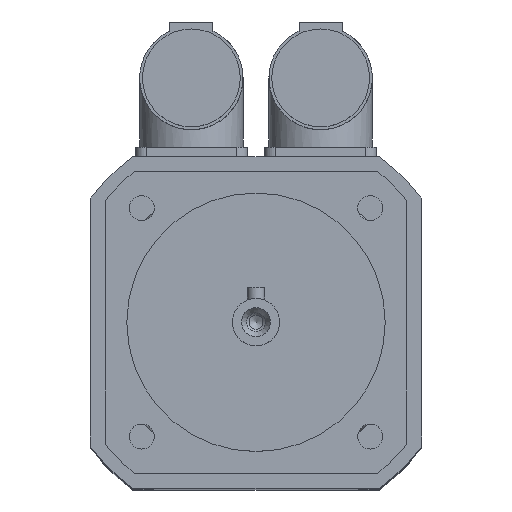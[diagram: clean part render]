
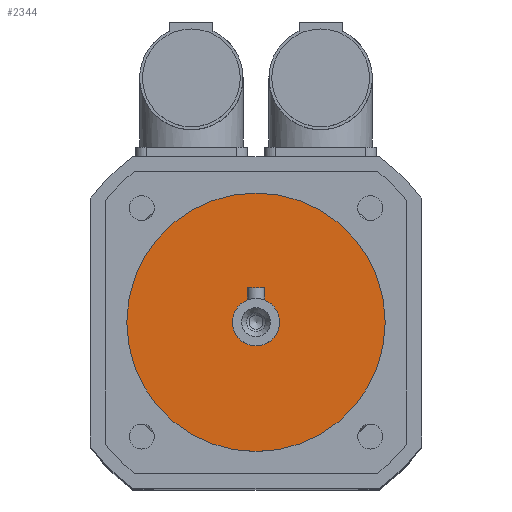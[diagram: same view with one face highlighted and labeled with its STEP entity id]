
A CAD part, top view. The second image highlights one B-rep face of the part: STEP entity #2344.
In plain terms, the highlighted planar face has unit normal (0, 0, 1).
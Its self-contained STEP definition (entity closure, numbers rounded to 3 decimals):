
#472=PLANE('',#2526);
#587=FACE_BOUND('',#805,.T.);
#653=FACE_OUTER_BOUND('',#804,.T.);
#804=EDGE_LOOP('',(#1839));
#805=EDGE_LOOP('',(#1840));
#951=CIRCLE('',#2525,5.5);
#952=CIRCLE('',#2527,30.);
#1114=VERTEX_POINT('',#3730);
#1115=VERTEX_POINT('',#3733);
#1385=EDGE_CURVE('',#1114,#1114,#951,.T.);
#1386=EDGE_CURVE('',#1115,#1115,#952,.T.);
#1839=ORIENTED_EDGE('',*,*,#1386,.F.);
#1840=ORIENTED_EDGE('',*,*,#1385,.T.);
#2344=ADVANCED_FACE('',(#653,#587),#472,.T.);
#2525=AXIS2_PLACEMENT_3D('',#3731,#2946,#2947);
#2526=AXIS2_PLACEMENT_3D('',#3732,#2948,#2949);
#2527=AXIS2_PLACEMENT_3D('',#3734,#2950,#2951);
#2946=DIRECTION('center_axis',(0.,0.,-1.));
#2947=DIRECTION('ref_axis',(1.,0.,0.));
#2948=DIRECTION('center_axis',(0.,0.,1.));
#2949=DIRECTION('ref_axis',(1.,0.,0.));
#2950=DIRECTION('center_axis',(0.,0.,-1.));
#2951=DIRECTION('ref_axis',(1.,0.,0.));
#3730=CARTESIAN_POINT('',(0.,5.5,191.5));
#3731=CARTESIAN_POINT('Origin',(0.,0.,191.5));
#3732=CARTESIAN_POINT('Origin',(0.,30.,191.5));
#3733=CARTESIAN_POINT('',(0.,30.,191.5));
#3734=CARTESIAN_POINT('Origin',(0.,0.,191.5));
